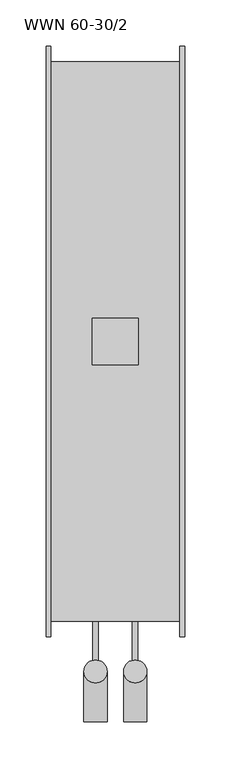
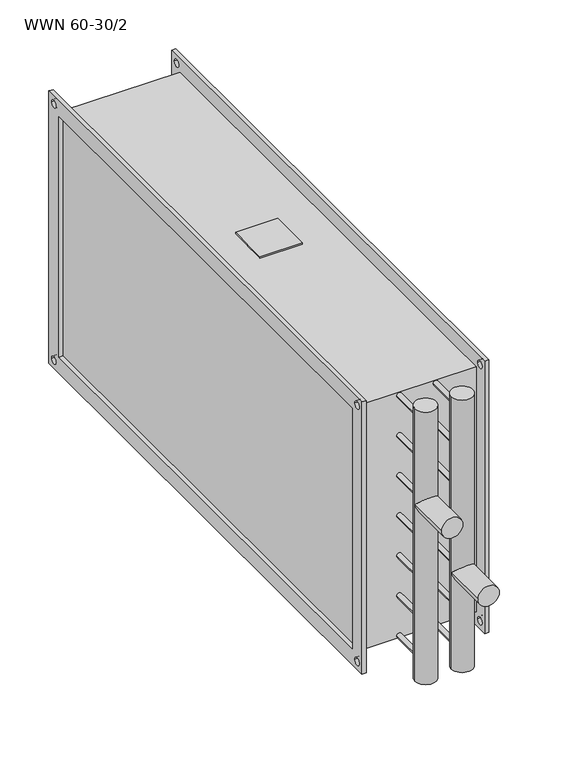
"""IFC4 building model written with IfcOpenShell, lengths in millimetres: proxy geometry, KORF_Нагреватель_Водяной_WWN : WWN 60-30/2."""

from ifc_helpers import new_model, si_unit, point, frame, frame_2d, origin, place, context, project, spatial, polyline, circle_curve, ellipse_curve, trimmed, segment, composite_curve, outline, extrude, source, transform, mapped, element, save
from ifc_brep_helpers import plane_surface, cylinder_surface, advanced_brep


def wwn_60_30_2_c555eadd(model_context):
    return source(origin(), model_context, "Body", "SolidModel", [
        extrude(outline(polyline([(50.0, -25.0), (50.0, 25.0), (100.0, 25.0), (100.0, -25.0), (50.0, -25.0)])), frame((0.0, 0.0, 153.0), z_axis=(0.0, 0.0, 1.0), x_axis=(1.0, 0.0, 0.0)), (0.0, 0.0, 1.0), 2.0),
        extrude(outline(polyline([(-320.0, 170.0), (320.0, 170.0), (320.0, -170.0), (-320.0, -170.0), (-320.0, 170.0)]), holes=[polyline([(-300.0, 150.0), (-300.0, -150.0), (300.0, -150.0), (300.0, 150.0), (-300.0, 150.0)]), composite_curve([segment(trimmed(circle_curve(frame_2d((310.0, 160.0)), 4.5), [point((305.5, 160.0))], [point((314.5, 160.0))], True, "CARTESIAN"), True, "CONTINUOUS"), segment(trimmed(circle_curve(frame_2d((310.0, 160.0)), 4.5), [point((314.5, 160.0))], [point((305.5, 160.0))], True, "CARTESIAN"), True, "CONTINUOUS")], self_intersect=False), composite_curve([segment(trimmed(circle_curve(frame_2d((-310.0, 160.0)), 4.5), [point((-314.5, 160.0))], [point((-305.5, 160.0))], True, "CARTESIAN"), True, "CONTINUOUS"), segment(trimmed(circle_curve(frame_2d((-310.0, 160.0)), 4.5), [point((-305.5, 160.0))], [point((-314.5, 160.0))], True, "CARTESIAN"), True, "CONTINUOUS")], self_intersect=False), composite_curve([segment(trimmed(circle_curve(frame_2d((-310.0, -160.0)), 4.5), [point((-314.5, -160.0))], [point((-305.5, -160.0))], True, "CARTESIAN"), True, "CONTINUOUS"), segment(trimmed(circle_curve(frame_2d((-310.0, -160.0)), 4.5), [point((-305.5, -160.0))], [point((-314.5, -160.0))], True, "CARTESIAN"), True, "CONTINUOUS")], self_intersect=False), composite_curve([segment(trimmed(circle_curve(frame_2d((310.0, -160.0)), 4.5), [point((305.5, -160.0))], [point((314.5, -160.0))], True, "CARTESIAN"), True, "CONTINUOUS"), segment(trimmed(circle_curve(frame_2d((310.0, -160.0)), 4.5), [point((314.5, -160.0))], [point((305.5, -160.0))], True, "CARTESIAN"), True, "CONTINUOUS")], self_intersect=False)]), frame((145.0, 0.0, 0.0), z_axis=(1.0, 0.0, 0.0), x_axis=(0.0, 1.0, 0.0)), (0.0, 0.0, 1.0), 5.0),
        extrude(outline(polyline([(-320.0, 170.0), (320.0, 170.0), (320.0, -170.0), (-320.0, -170.0), (-320.0, 170.0)]), holes=[polyline([(-300.0, 150.0), (-300.0, -150.0), (300.0, -150.0), (300.0, 150.0), (-300.0, 150.0)]), composite_curve([segment(trimmed(circle_curve(frame_2d((310.0, 160.0)), 4.5), [point((305.5, 160.0))], [point((314.5, 160.0))], True, "CARTESIAN"), True, "CONTINUOUS"), segment(trimmed(circle_curve(frame_2d((310.0, 160.0)), 4.5), [point((314.5, 160.0))], [point((305.5, 160.0))], True, "CARTESIAN"), True, "CONTINUOUS")], self_intersect=False), composite_curve([segment(trimmed(circle_curve(frame_2d((-310.0, 160.0)), 4.5), [point((-314.5, 160.0))], [point((-305.5, 160.0))], True, "CARTESIAN"), True, "CONTINUOUS"), segment(trimmed(circle_curve(frame_2d((-310.0, 160.0)), 4.5), [point((-305.5, 160.0))], [point((-314.5, 160.0))], True, "CARTESIAN"), True, "CONTINUOUS")], self_intersect=False), composite_curve([segment(trimmed(circle_curve(frame_2d((-310.0, -160.0)), 4.5), [point((-314.5, -160.0))], [point((-305.5, -160.0))], True, "CARTESIAN"), True, "CONTINUOUS"), segment(trimmed(circle_curve(frame_2d((-310.0, -160.0)), 4.5), [point((-305.5, -160.0))], [point((-314.5, -160.0))], True, "CARTESIAN"), True, "CONTINUOUS")], self_intersect=False), composite_curve([segment(trimmed(circle_curve(frame_2d((310.0, -160.0)), 4.5), [point((305.5, -160.0))], [point((314.5, -160.0))], True, "CARTESIAN"), True, "CONTINUOUS"), segment(trimmed(circle_curve(frame_2d((310.0, -160.0)), 4.5), [point((314.5, -160.0))], [point((305.5, -160.0))], True, "CARTESIAN"), True, "CONTINUOUS")], self_intersect=False)]), frame((0.0, 0.0, 0.0), z_axis=(1.0, 0.0, 0.0), x_axis=(0.0, 1.0, 0.0)), (0.0, 0.0, 1.0), 5.0),
        extrude(outline(polyline([(145.0, 303.0), (145.0, -303.0), (5.0, -303.0), (5.0, 303.0), (145.0, 303.0)])), frame((0.0, 0.0, -153.0), z_axis=(0.0, 0.0, 1.0), x_axis=(1.0, 0.0, 0.0)), (0.0, 0.0, 1.0), 306.0),
        advanced_brep(
        [(41.0, -412.0, 50.0), (66.0, -412.0, 50.0), (41.0, -357.5, 50.0), (66.0, -357.5, 50.0), (41.0, -357.5, 170.0), (66.0, -357.5, 170.0), (41.0, -357.5, -170.0), (66.0, -357.5, -170.0)],
        [
            (0, 1, circle_curve(frame((53.5, -412.0, 50.0), z_axis=(0.0, -1.0, 0.0), x_axis=(1.0, 0.0, 0.0)), 12.5)),
            (1, 0, circle_curve(frame((53.5, -412.0, 50.0), z_axis=(0.0, -1.0, 0.0), x_axis=(1.0, 0.0, 0.0)), 12.5)),
            (0, 2),
            (2, 3, ellipse_curve(frame((53.5, -357.5, 50.0), z_axis=(0.0, -0.7071067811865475, 0.7071067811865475), x_axis=(0.0, -0.7071067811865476, -0.7071067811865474)), 17.6776695, 12.5)),
            (3, 1),
            (3, 2, ellipse_curve(frame((53.5, -357.5, 50.0), z_axis=(0.0, -0.7071067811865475, -0.7071067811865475), x_axis=(0.0, -0.7071067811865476, 0.7071067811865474)), 17.6776695, 12.5)),
            (4, 5, circle_curve(frame((53.5, -357.5, 170.0), z_axis=(0.0, 0.0, 1.0), x_axis=(1.0, 0.0, 0.0)), 12.5)),
            (5, 4, circle_curve(frame((53.5, -357.5, 170.0), z_axis=(0.0, 0.0, 1.0), x_axis=(1.0, 0.0, 0.0)), 12.5)),
            (6, 7, circle_curve(frame((53.5, -357.5, -170.0), z_axis=(0.0, 0.0, -1.0), x_axis=(1.0, 0.0, 0.0)), 12.5)),
            (7, 6, circle_curve(frame((53.5, -357.5, -170.0), z_axis=(0.0, 0.0, -1.0), x_axis=(1.0, 0.0, 0.0)), 12.5)),
            (4, 2),
            (3, 5),
            (7, 3),
            (2, 6),
        ],
        [
            plane_surface(frame((66.0, -412.0, 50.0), z_axis=(0.0, -1.0, 0.0), x_axis=(0.0, 0.0, 1.0))),
            cylinder_surface(frame((53.5, -357.5, 50.0), z_axis=(0.0, -1.0, 0.0), x_axis=(1.0, 0.0, 0.0)), 12.5),
            plane_surface(frame((66.0, -357.5, 170.0), z_axis=(0.0, 0.0, 1.0), x_axis=(0.0, 1.0, 0.0))),
            plane_surface(frame((66.0, -357.5, -170.0), z_axis=(0.0, 0.0, -1.0), x_axis=(0.0, -1.0, 0.0))),
            cylinder_surface(frame((53.5, -357.5, -170.0), z_axis=(0.0, 0.0, 1.0), x_axis=(1.0, 0.0, 0.0)), 12.5),
        ],
        [
            (0, [[1, 2]]),
            (1, [[-1, 3, 4, 5]]),
            (1, [[-2, -5, 6, -3]]),
            (2, [[7, 8]]),
            (3, [[9, 10]]),
            (4, [[-7, 11, -6, 12]]),
            (4, [[-10, 13, -4, 14]]),
            (4, [[-8, -12, -13, -9, -14, -11]]),
        ],
    ),
        advanced_brep(
        [(84.0, -412.0, -50.0), (109.0, -412.0, -50.0), (84.0, -357.5, -50.0), (109.0, -357.5, -50.0), (84.0, -357.5, 170.0), (109.0, -357.5, 170.0), (84.0, -357.5, -170.0), (109.0, -357.5, -170.0)],
        [
            (0, 1, circle_curve(frame((96.5, -412.0, -50.0), z_axis=(0.0, -1.0, 0.0), x_axis=(1.0, 0.0, 0.0)), 12.5)),
            (1, 0, circle_curve(frame((96.5, -412.0, -50.0), z_axis=(0.0, -1.0, 0.0), x_axis=(1.0, 0.0, 0.0)), 12.5)),
            (0, 2),
            (2, 3, ellipse_curve(frame((96.5, -357.5, -50.0), z_axis=(0.0, -0.7071067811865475, 0.7071067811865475), x_axis=(0.0, -0.7071067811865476, -0.7071067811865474)), 17.6776695, 12.5)),
            (3, 1),
            (3, 2, ellipse_curve(frame((96.5, -357.5, -50.0), z_axis=(0.0, -0.7071067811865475, -0.7071067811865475), x_axis=(0.0, -0.7071067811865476, 0.7071067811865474)), 17.6776695, 12.5)),
            (4, 5, circle_curve(frame((96.5, -357.5, 170.0), z_axis=(0.0, 0.0, 1.0), x_axis=(1.0, 0.0, 0.0)), 12.5)),
            (5, 4, circle_curve(frame((96.5, -357.5, 170.0), z_axis=(0.0, 0.0, 1.0), x_axis=(1.0, 0.0, 0.0)), 12.5)),
            (6, 7, circle_curve(frame((96.5, -357.5, -170.0), z_axis=(0.0, 0.0, -1.0), x_axis=(1.0, 0.0, 0.0)), 12.5)),
            (7, 6, circle_curve(frame((96.5, -357.5, -170.0), z_axis=(0.0, 0.0, -1.0), x_axis=(1.0, 0.0, 0.0)), 12.5)),
            (4, 2),
            (3, 5),
            (7, 3),
            (2, 6),
        ],
        [
            plane_surface(frame((66.0, -412.0, 50.0), z_axis=(0.0, -1.0, 0.0), x_axis=(0.0, 0.0, 1.0))),
            cylinder_surface(frame((96.5, 0.0, -50.0), z_axis=(0.0, -1.0, 0.0), x_axis=(1.0, 0.0, 0.0)), 12.5),
            plane_surface(frame((66.0, -357.5, 170.0), z_axis=(0.0, 0.0, 1.0), x_axis=(0.0, 1.0, 0.0))),
            plane_surface(frame((66.0, -357.5, -170.0), z_axis=(0.0, 0.0, -1.0), x_axis=(0.0, -1.0, 0.0))),
            cylinder_surface(frame((96.5, -357.5, 0.0), z_axis=(0.0, 0.0, 1.0), x_axis=(1.0, 0.0, 0.0)), 12.5),
        ],
        [
            (0, [[1, 2]]),
            (1, [[-1, 3, 4, 5]]),
            (1, [[-2, -5, 6, -3]]),
            (2, [[7, 8]]),
            (3, [[9, 10]]),
            (4, [[-7, 11, -6, 12]]),
            (4, [[-10, 13, -4, 14]]),
            (4, [[-8, -12, -13, -9, -14, -11]]),
        ],
    ),
        extrude(outline(composite_curve([segment(trimmed(circle_curve(frame_2d((150.0, 53.5)), 3.0), [point((150.0, 50.5))], [point((150.0, 56.5))], False, "CARTESIAN"), True, "CONTINUOUS"), segment(trimmed(circle_curve(frame_2d((150.0, 53.5)), 3.0), [point((150.0, 56.5))], [point((150.0, 50.5))], False, "CARTESIAN"), True, "CONTINUOUS")], self_intersect=False)), frame((0.0, -357.5, 0.0), z_axis=(0.0, 1.0, 0.0), x_axis=(0.0, 0.0, 1.0)), (0.0, 0.0, 1.0), 54.5),
        extrude(outline(composite_curve([segment(trimmed(circle_curve(frame_2d((100.0, 53.5)), 3.0), [point((100.0, 50.5))], [point((100.0, 56.5))], False, "CARTESIAN"), True, "CONTINUOUS"), segment(trimmed(circle_curve(frame_2d((100.0, 53.5)), 3.0), [point((100.0, 56.5))], [point((100.0, 50.5))], False, "CARTESIAN"), True, "CONTINUOUS")], self_intersect=False)), frame((0.0, -357.5, 0.0), z_axis=(0.0, 1.0, 0.0), x_axis=(0.0, 0.0, 1.0)), (0.0, 0.0, 1.0), 54.5),
        extrude(outline(composite_curve([segment(trimmed(circle_curve(frame_2d((50.0, 53.5)), 3.0), [point((50.0, 50.5))], [point((50.0, 56.5))], False, "CARTESIAN"), True, "CONTINUOUS"), segment(trimmed(circle_curve(frame_2d((50.0, 53.5)), 3.0), [point((50.0, 56.5))], [point((50.0, 50.5))], False, "CARTESIAN"), True, "CONTINUOUS")], self_intersect=False)), frame((0.0, -357.5, 0.0), z_axis=(0.0, 1.0, 0.0), x_axis=(0.0, 0.0, 1.0)), (0.0, 0.0, 1.0), 54.5),
        extrude(outline(composite_curve([segment(trimmed(circle_curve(frame_2d((0.0, 53.5)), 3.0), [point((0.0, 50.5))], [point((0.0, 56.5))], False, "CARTESIAN"), True, "CONTINUOUS"), segment(trimmed(circle_curve(frame_2d((0.0, 53.5)), 3.0), [point((0.0, 56.5))], [point((0.0, 50.5))], False, "CARTESIAN"), True, "CONTINUOUS")], self_intersect=False)), frame((0.0, -357.5, 0.0), z_axis=(0.0, 1.0, 0.0), x_axis=(0.0, 0.0, 1.0)), (0.0, 0.0, 1.0), 54.5),
        extrude(outline(composite_curve([segment(trimmed(circle_curve(frame_2d((-50.0, 53.5)), 3.0), [point((-50.0, 50.5))], [point((-50.0, 56.5))], False, "CARTESIAN"), True, "CONTINUOUS"), segment(trimmed(circle_curve(frame_2d((-50.0, 53.5)), 3.0), [point((-50.0, 56.5))], [point((-50.0, 50.5))], False, "CARTESIAN"), True, "CONTINUOUS")], self_intersect=False)), frame((0.0, -357.5, 0.0), z_axis=(0.0, 1.0, 0.0), x_axis=(0.0, 0.0, 1.0)), (0.0, 0.0, 1.0), 54.5),
        extrude(outline(composite_curve([segment(trimmed(circle_curve(frame_2d((-100.0, 53.5)), 3.0), [point((-100.0, 50.5))], [point((-100.0, 56.5))], False, "CARTESIAN"), True, "CONTINUOUS"), segment(trimmed(circle_curve(frame_2d((-100.0, 53.5)), 3.0), [point((-100.0, 56.5))], [point((-100.0, 50.5))], False, "CARTESIAN"), True, "CONTINUOUS")], self_intersect=False)), frame((0.0, -357.5, 0.0), z_axis=(0.0, 1.0, 0.0), x_axis=(0.0, 0.0, 1.0)), (0.0, 0.0, 1.0), 54.5),
        extrude(outline(composite_curve([segment(trimmed(circle_curve(frame_2d((-100.0, 96.5)), 3.0), [point((-100.0, 93.5))], [point((-100.0, 99.5))], False, "CARTESIAN"), True, "CONTINUOUS"), segment(trimmed(circle_curve(frame_2d((-100.0, 96.5)), 3.0), [point((-100.0, 99.5))], [point((-100.0, 93.5))], False, "CARTESIAN"), True, "CONTINUOUS")], self_intersect=False)), frame((0.0, -357.5, 0.0), z_axis=(0.0, 1.0, 0.0), x_axis=(0.0, 0.0, 1.0)), (0.0, 0.0, 1.0), 54.5),
        extrude(outline(composite_curve([segment(trimmed(circle_curve(frame_2d((-50.0, 96.5)), 3.0), [point((-50.0, 93.5))], [point((-50.0, 99.5))], False, "CARTESIAN"), True, "CONTINUOUS"), segment(trimmed(circle_curve(frame_2d((-50.0, 96.5)), 3.0), [point((-50.0, 99.5))], [point((-50.0, 93.5))], False, "CARTESIAN"), True, "CONTINUOUS")], self_intersect=False)), frame((0.0, -357.5, 0.0), z_axis=(0.0, 1.0, 0.0), x_axis=(0.0, 0.0, 1.0)), (0.0, 0.0, 1.0), 54.5),
        extrude(outline(composite_curve([segment(trimmed(circle_curve(frame_2d((0.0, 96.5)), 3.0), [point((0.0, 93.5))], [point((0.0, 99.5))], False, "CARTESIAN"), True, "CONTINUOUS"), segment(trimmed(circle_curve(frame_2d((0.0, 96.5)), 3.0), [point((0.0, 99.5))], [point((0.0, 93.5))], False, "CARTESIAN"), True, "CONTINUOUS")], self_intersect=False)), frame((0.0, -357.5, 0.0), z_axis=(0.0, 1.0, 0.0), x_axis=(0.0, 0.0, 1.0)), (0.0, 0.0, 1.0), 54.5),
        extrude(outline(composite_curve([segment(trimmed(circle_curve(frame_2d((50.0, 96.5)), 3.0), [point((50.0, 93.5))], [point((50.0, 99.5))], False, "CARTESIAN"), True, "CONTINUOUS"), segment(trimmed(circle_curve(frame_2d((50.0, 96.5)), 3.0), [point((50.0, 99.5))], [point((50.0, 93.5))], False, "CARTESIAN"), True, "CONTINUOUS")], self_intersect=False)), frame((0.0, -357.5, 0.0), z_axis=(0.0, 1.0, 0.0), x_axis=(0.0, 0.0, 1.0)), (0.0, 0.0, 1.0), 54.5),
        extrude(outline(composite_curve([segment(trimmed(circle_curve(frame_2d((100.0, 96.5)), 3.0), [point((100.0, 93.5))], [point((100.0, 99.5))], False, "CARTESIAN"), True, "CONTINUOUS"), segment(trimmed(circle_curve(frame_2d((100.0, 96.5)), 3.0), [point((100.0, 99.5))], [point((100.0, 93.5))], False, "CARTESIAN"), True, "CONTINUOUS")], self_intersect=False)), frame((0.0, -357.5, 0.0), z_axis=(0.0, 1.0, 0.0), x_axis=(0.0, 0.0, 1.0)), (0.0, 0.0, 1.0), 54.5),
        extrude(outline(composite_curve([segment(trimmed(circle_curve(frame_2d((150.0, 96.5)), 3.0), [point((150.0, 93.5))], [point((150.0, 99.5))], False, "CARTESIAN"), True, "CONTINUOUS"), segment(trimmed(circle_curve(frame_2d((150.0, 96.5)), 3.0), [point((150.0, 99.5))], [point((150.0, 93.5))], False, "CARTESIAN"), True, "CONTINUOUS")], self_intersect=False)), frame((0.0, -357.5, 0.0), z_axis=(0.0, 1.0, 0.0), x_axis=(0.0, 0.0, 1.0)), (0.0, 0.0, 1.0), 54.5),
        extrude(outline(composite_curve([segment(trimmed(circle_curve(frame_2d((-150.0, 53.5)), 3.0), [point((-150.0, 50.5))], [point((-150.0, 56.5))], False, "CARTESIAN"), True, "CONTINUOUS"), segment(trimmed(circle_curve(frame_2d((-150.0, 53.5)), 3.0), [point((-150.0, 56.5))], [point((-150.0, 50.5))], False, "CARTESIAN"), True, "CONTINUOUS")], self_intersect=False)), frame((0.0, -357.5, 0.0), z_axis=(0.0, 1.0, 0.0), x_axis=(0.0, 0.0, 1.0)), (0.0, 0.0, 1.0), 54.5),
        extrude(outline(composite_curve([segment(trimmed(circle_curve(frame_2d((-150.0, 96.5)), 3.0), [point((-150.0, 93.5))], [point((-150.0, 99.5))], False, "CARTESIAN"), True, "CONTINUOUS"), segment(trimmed(circle_curve(frame_2d((-150.0, 96.5)), 3.0), [point((-150.0, 99.5))], [point((-150.0, 93.5))], False, "CARTESIAN"), True, "CONTINUOUS")], self_intersect=False)), frame((0.0, -357.5, 0.0), z_axis=(0.0, 1.0, 0.0), x_axis=(0.0, 0.0, 1.0)), (0.0, 0.0, 1.0), 54.5),
    ])


if __name__ == "__main__":
    model = new_model("IFC4")
    model_context = context("Model", 3, world=origin())
    ifc_project = project(units=[si_unit("LENGTHUNIT", "METRE", prefix="MILLI")], contexts=[model_context])
    site = spatial("IfcSite", under=ifc_project)
    building = spatial("IfcBuilding", under=site)
    placement = place(None, origin())
    wwn_60_30_2_shape = wwn_60_30_2_c555eadd(model_context)
    element("IfcBuildingElementProxy", 1, Name="KORF_Нагреватель_Водяной_WWN : WWN 60-30/2", ObjectType="KORF_Нагреватель_Водяной_WWN : WWN 60-30/2", at=placement, inside=building, context=model_context, shape_type="MappedRepresentation", body=[
        mapped(wwn_60_30_2_shape, transform((0.0, 0.0, 0.0), x_axis=(1.0, 0.0, 0.0), y_axis=(0.0, 1.0, 0.0), z_axis=(0.0, 0.0, 1.0))),
    ])
    save(model, "model.ifc")
